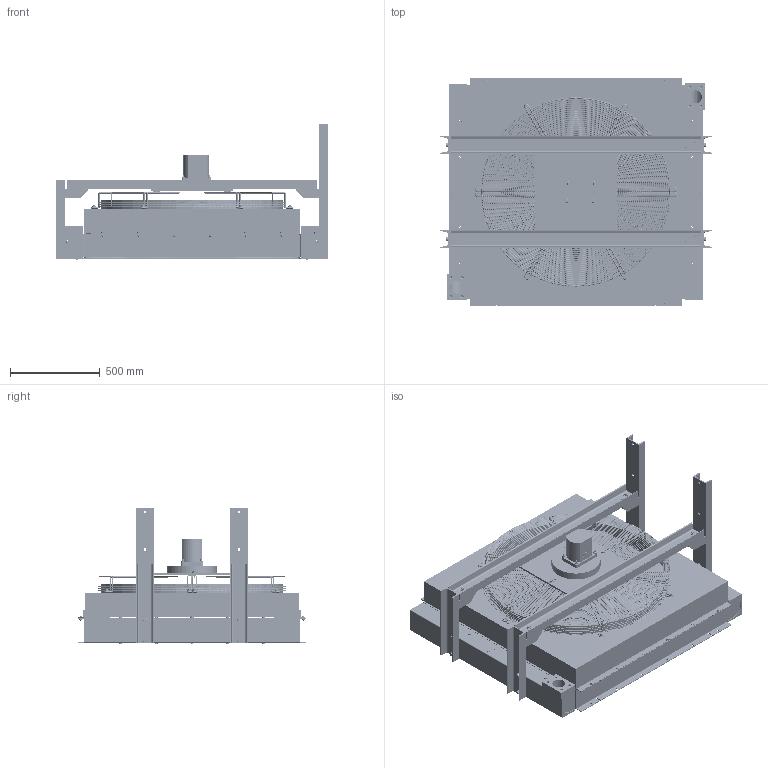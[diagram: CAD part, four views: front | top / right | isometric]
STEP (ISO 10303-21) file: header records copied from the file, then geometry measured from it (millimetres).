
FILE_DESCRIPTION((' '),'1');
FILE_NAME('5211.204.0000-a.stp','2010-04-01 T15:17:31',(' '),(' '),'STEP Interface v1.0 by CT CoreTechnologie','3D_Evolution v1.0 by CT CoreTechnologie',' ');
FILE_SCHEMA(('AUTOMOTIVE_DESIGN_CC2 { 1 2 10303 214 -1 1 5 2 }'));
Length unit declared in the file: millimetre
Products named in the file (160): 5211.204.0000-a; Sechskantschraube_ISO_4017-M12x30-8.8-A3B; Scheibe_ISO_7090-12-200_HV-A3B; Sechskantmutter_ISO_4032_M8-8-A3B; Sechskantschraube_ISO_4017-M8x20-8.8-A3B; Scheibe ISO 7093-1-8-200HV-A3B; Sechskantschraube_ISO_4017-M8x20-A2-70; Scheibe DIN 6340 8,4 - A2; Sechskantmutter_ISO_4032_M10-10-Geomet; Scheibe_ISO_7090-10-200_HV-A3B; Sechskantschraube_ISO_4017-M10x50-8.8-A3B; Sechskantschraube_ISO_4017-M6x25-8.8-A3B; 8054.011.0000; 8407.470.0145; 8402.228.0000-a1; 8402.228.0000-a2; 8402.228.0000-a3; 8402.228.0000-a4; 8402.228.0000-a5; 8402.228.0000-a6; 8402.228.0000-a7; 8402.228.0000-a8; 8402.228.0000-a9; 8402.228.0000-a10; 8402.228.0000-a11; 8402.228.0000-a12; 8402.228.0000-a13; 8402.228.0000-a14; 8402.228.0000-a15; 8402.228.0000-a16; 8402.228.0000-a17; 8402.228.0000-a18; 8402.228.0000-a19; 8402.228.0000-a20; 8402.228.0000-a21; 8402.228.0000-a22; 8402.228.0000-a23; 8402.228.0000-a24; 8402.228.0000-a25; 8402.228.0000-a26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
Assembly tree (281 placements, depth 5):
  5211.204.0000-a
    Sechskantschraube_ISO_4017-M12x30-8.8-A3B  x8
    Scheibe_ISO_7090-12-200_HV-A3B  x8
    Sechskantmutter_ISO_4032_M8-8-A3B  x12
    Sechskantschraube_ISO_4017-M8x20-8.8-A3B  x12
    Scheibe ISO 7093-1-8-200HV-A3B  x24
    Sechskantschraube_ISO_4017-M8x20-A2-70  x8
    Scheibe DIN 6340 8,4 - A2  x8
    Sechskantmutter_ISO_4032_M10-10-Geomet  x4
    Scheibe_ISO_7090-10-200_HV-A3B  x4
    Sechskantschraube_ISO_4017-M10x50-8.8-A3B  x4
    Sechskantschraube_ISO_4017-M6x25-8.8-A3B  x2
    8054.011.0000  x2
    8407.470.0145
    8402.228.0000-a1
    8402.228.0000-a2
    8402.228.0000-a3
    8402.228.0000-a4
    8402.228.0000-a5
    8402.228.0000-a6
    8402.228.0000-a7
    8402.228.0000-a8
    8402.228.0000-a9
    8402.228.0000-a10
    8402.228.0000-a11
    8402.228.0000-a12
    8402.228.0000-a13
    8402.228.0000-a14
    8402.228.0000-a15
    8402.228.0000-a16
    8402.228.0000-a17
    8402.228.0000-a18
    8402.228.0000-a19
    8402.228.0000-a20
    8402.228.0000-a21
    8402.228.0000-a22
    8402.228.0000-a23
    8402.228.0000-a24
    8402.228.0000-a25
    8402.228.0000-a26
    8402.228.0000-a27
    8402.228.0000-a28
    8402.228.0000-a29
    8402.228.0000-a30
    8402.228.0000-a31
    8402.228.0000-a32
    8402.228.0000-a33
    8402.228.0000-a34
    8402.228.0000-a35
    8402.228.0000-a36
    8402.228.0000-a37
    8402.228.0000-a38
    8402.228.0000-a39
    8402.228.0000-a40
    8402.228.0000-a41
    8402.228.0000-a42
    8402.228.0000-a43
    8402.228.0000-a44
    8402.228.0000-a45
    8402.228.0000-a46
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Bounding box: 1520 x 1267.64 x 755 mm (x, y, z)
Volume: 230353443.5 mm3; surface area: 14683562.8 mm2
Topology: 285 solids, 285 shells, 4429 faces, 10200 edges, 6406 vertices
Faces by surface type: bspline 1712, plane 1609, cylinder 1108
Entity records: 97038 total; most frequent: CARTESIAN_POINT 23908, DIRECTION 10647, ORIENTED_EDGE 10314, EDGE_CURVE 5157, AXIS2_PLACEMENT_3D 4305, VERTEX_POINT 3246, CIRCLE 2644, EDGE_LOOP 2533
